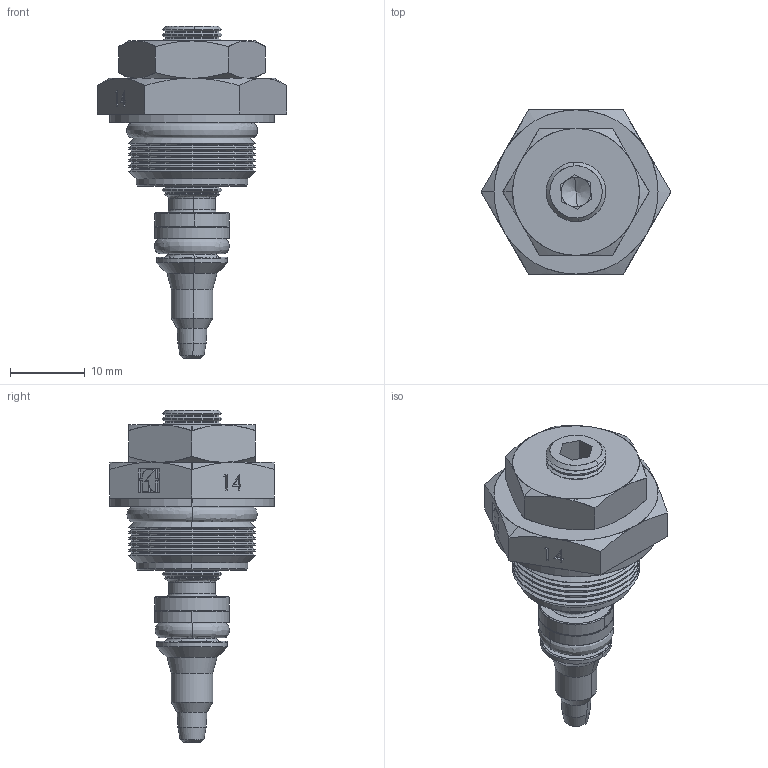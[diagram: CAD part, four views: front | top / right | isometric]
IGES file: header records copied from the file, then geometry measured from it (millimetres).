
Start section: SolidWorks IGES file using analytic representation for surfaces
Global section: file name: C:\Users\user\Desktop\2243_2-14.IGS; native system: SolidWorks 2014; preprocessor: SolidWorks 2014; author: user; date: 140611.133750; units: millimetre
Bounding box: 25.4 x 22 x 44.5 mm (x, y, z)
Surface area: 5068.2 mm2 (no closed solid volume)
Topology: 0 solids, 0 shells, 534 faces, 3814 edges, 3812 vertices
Faces by surface type: revolution 345, bspline 189
